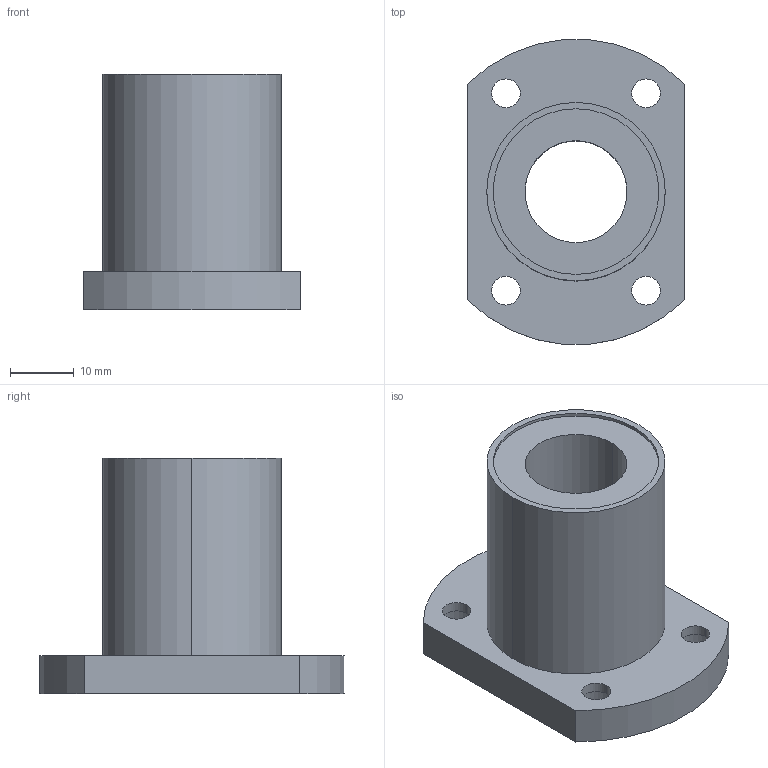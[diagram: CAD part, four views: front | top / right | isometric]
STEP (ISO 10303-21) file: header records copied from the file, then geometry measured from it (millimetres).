
FILE_DESCRIPTION((''),'2;1');
FILE_NAME('C:\Documents and Settings\ｿﾀﾀ蠑ｷ1\ｹﾙﾅﾁ ﾈｭｸ饅\ｺﾎﾇｰﾆﾄﾀﾏ\ﾁｦﾇｰ\LMH__UU\LMH16UU.stp','2005-06-15T10:35:52',('ｿﾀﾀ蠑ｷ1'),(''),'Autodesk Inventor 9','Autodesk Inventor 9','');
FILE_SCHEMA(('AUTOMOTIVE_DESIGN { 1 0 10303 214 1 1 1 1 }'));
Length unit declared in the file: millimetre
Products named in the file (1): LMH__
Bounding box: 34 x 47.82 x 37 mm (x, y, z)
Volume: 19022 mm3; surface area: 8466 mm2
Topology: 1 solids, 1 shells, 40 faces, 90 edges, 60 vertices
Faces by surface type: cylinder 28, plane 12
Entity records: 1193 total; most frequent: DIRECTION 228, CARTESIAN_POINT 191, ORIENTED_EDGE 180, AXIS2_PLACEMENT_3D 97, EDGE_CURVE 90, VERTEX_POINT 60, EDGE_LOOP 58, CIRCLE 56
